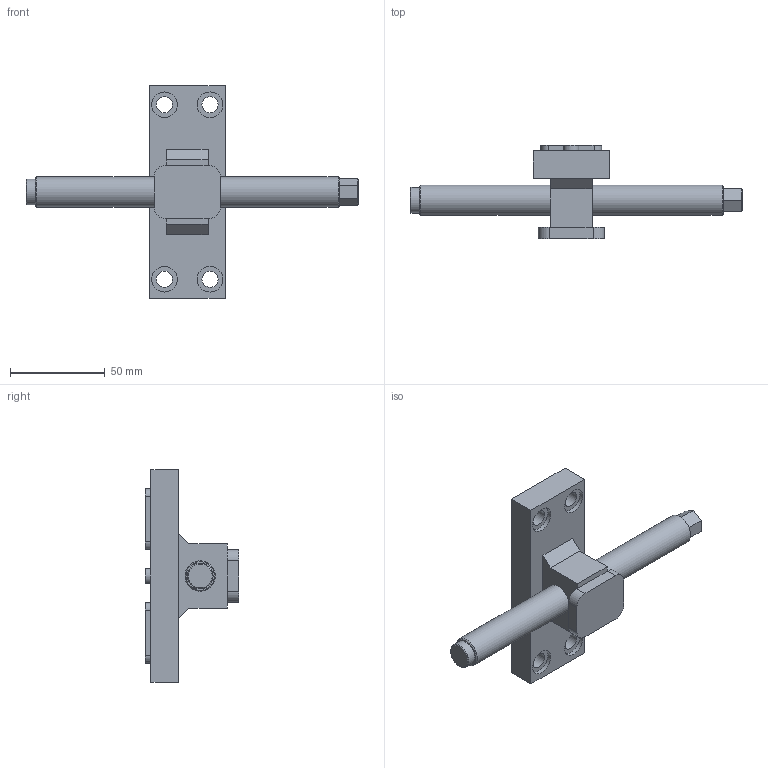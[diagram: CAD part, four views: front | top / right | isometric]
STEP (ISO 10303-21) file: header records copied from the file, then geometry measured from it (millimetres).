
FILE_DESCRIPTION (( 'STEP AP214' ), '1' );
FILE_NAME ('49080-TG77.STEP', '2020-03-30T12:37:49', ( '' ), ( '' ), 'SwSTEP 2.0', 'SolidWorks 2019', '' );
FILE_SCHEMA (( 'AUTOMOTIVE_DESIGN' ));
Length unit declared in the file: millimetre
Products named in the file (1): 49080-TG77
Bounding box: 175 x 49.3 x 112 mm (x, y, z)
Volume: 118215.4 mm3; surface area: 27105.5 mm2
Topology: 1 solids, 1 shells, 87 faces, 199 edges, 127 vertices
Faces by surface type: plane 63, cylinder 21, cone 3
Full cylindrical faces by diameter (mm): 8.5 x4, 13.5 x5, 16 x2
Entity records: 2780 total; most frequent: DIRECTION 404, CARTESIAN_POINT 396, ORIENTED_EDGE 366, EDGE_CURVE 183, VECTOR 138, LINE 138, AXIS2_PLACEMENT_3D 133, VERTEX_POINT 125
